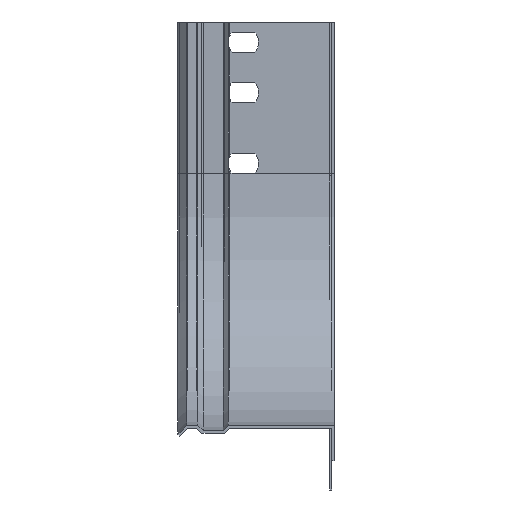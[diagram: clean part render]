
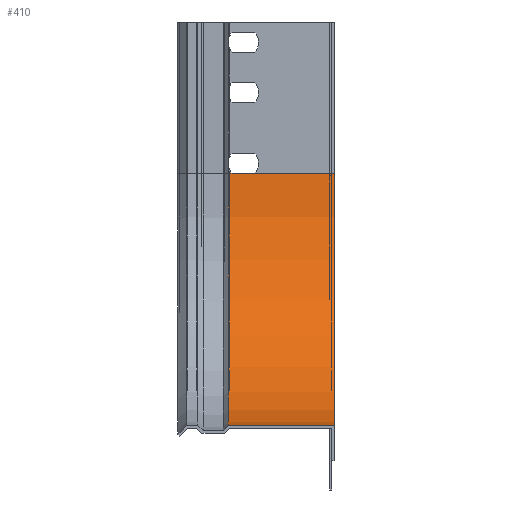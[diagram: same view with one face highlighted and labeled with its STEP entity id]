
A CAD part, left-side view. The second image highlights one B-rep face of the part: STEP entity #410.
In plain terms, the highlighted cylindrical face has radius 100 mm (diameter 200 mm), a partial arc.
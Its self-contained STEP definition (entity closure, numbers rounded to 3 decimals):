
#41 = CIRCLE ( 'NONE', #2132, 100. ) ;
#108 = VECTOR ( 'NONE', #668, 1000. ) ;
#138 = VERTEX_POINT ( 'NONE', #1513 ) ;
#410 = ADVANCED_FACE ( 'NONE', ( #3155 ), #1343, .F. ) ;
#592 = ORIENTED_EDGE ( 'NONE', *, *, #1330, .T. ) ;
#664 = EDGE_CURVE ( 'NONE', #1300, #3653, #2689, .T. ) ;
#668 = DIRECTION ( 'NONE',  ( 0., 1., 0. ) ) ;
#695 = ORIENTED_EDGE ( 'NONE', *, *, #4029, .T. ) ;
#761 = AXIS2_PLACEMENT_3D ( 'NONE', #3558, #1420, #3578 ) ;
#835 = EDGE_CURVE ( 'NONE', #2223, #138, #4607, .T. ) ;
#963 = CARTESIAN_POINT ( 'NONE',  ( -60., 0., 160. ) ) ;
#968 = CARTESIAN_POINT ( 'NONE',  ( -160., 40.472, 60. ) ) ;
#1009 = CIRCLE ( 'NONE', #4596, 100. ) ;
#1225 = CARTESIAN_POINT ( 'NONE',  ( -60., 42., 60. ) ) ;
#1300 = VERTEX_POINT ( 'NONE', #2537 ) ;
#1330 = EDGE_CURVE ( 'NONE', #3653, #3979, #1820, .T. ) ;
#1343 = CYLINDRICAL_SURFACE ( 'NONE', #761, 100. ) ;
#1408 = DIRECTION ( 'NONE',  ( 0., 1., 0. ) ) ;
#1420 = DIRECTION ( 'NONE',  ( 0., -1., 0. ) ) ;
#1428 = ORIENTED_EDGE ( 'NONE', *, *, #1834, .F. ) ;
#1484 = CARTESIAN_POINT ( 'NONE',  ( -60., 0., 160. ) ) ;
#1513 = CARTESIAN_POINT ( 'NONE',  ( -60., 42., 160. ) ) ;
#1597 = DIRECTION ( 'NONE',  ( 0., 1., 0. ) ) ;
#1751 = CARTESIAN_POINT ( 'NONE',  ( -160., 40.472, 60. ) ) ;
#1800 = VERTEX_POINT ( 'NONE', #1815 ) ;
#1815 = CARTESIAN_POINT ( 'NONE',  ( -60., 31.528, 160. ) ) ;
#1820 = LINE ( 'NONE', #1751, #108 ) ;
#1834 = EDGE_CURVE ( 'NONE', #1800, #2223, #2818, .T. ) ;
#1931 = ORIENTED_EDGE ( 'NONE', *, *, #2117, .F. ) ;
#2075 = CARTESIAN_POINT ( 'NONE',  ( -60., 40.472, 160. ) ) ;
#2089 = CARTESIAN_POINT ( 'NONE',  ( -60., 0., 60. ) ) ;
#2117 = EDGE_CURVE ( 'NONE', #3332, #1800, #3714, .T. ) ;
#2132 = AXIS2_PLACEMENT_3D ( 'NONE', #2089, #2164, #3574 ) ;
#2142 = DIRECTION ( 'NONE',  ( 0., 1., 0. ) ) ;
#2164 = DIRECTION ( 'NONE',  ( 0., -1., 0. ) ) ;
#2223 = VERTEX_POINT ( 'NONE', #3151 ) ;
#2260 = EDGE_CURVE ( 'NONE', #3332, #1300, #41, .T. ) ;
#2367 = DIRECTION ( 'NONE',  ( 0., 1., 0. ) ) ;
#2515 = ORIENTED_EDGE ( 'NONE', *, *, #2260, .T. ) ;
#2521 = ORIENTED_EDGE ( 'NONE', *, *, #664, .T. ) ;
#2537 = CARTESIAN_POINT ( 'NONE',  ( -160., 0., 60. ) ) ;
#2568 = VECTOR ( 'NONE', #2367, 1000. ) ;
#2689 = LINE ( 'NONE', #4091, #4498 ) ;
#2818 = LINE ( 'NONE', #2075, #4508 ) ;
#2836 = EDGE_CURVE ( 'NONE', #138, #2972, #1009, .T. ) ;
#2876 = DIRECTION ( 'NONE',  ( 0., 0., -1. ) ) ;
#2972 = VERTEX_POINT ( 'NONE', #4496 ) ;
#3114 = CARTESIAN_POINT ( 'NONE',  ( -160., 0., 60. ) ) ;
#3151 = CARTESIAN_POINT ( 'NONE',  ( -60., 40.472, 160. ) ) ;
#3155 = FACE_OUTER_BOUND ( 'NONE', #3953, .T. ) ;
#3239 = CARTESIAN_POINT ( 'NONE',  ( -60., 0., 160. ) ) ;
#3265 = DIRECTION ( 'NONE',  ( 0., -1., 0. ) ) ;
#3306 = CARTESIAN_POINT ( 'NONE',  ( -160., 31.528, 60. ) ) ;
#3332 = VERTEX_POINT ( 'NONE', #1484 ) ;
#3465 = ORIENTED_EDGE ( 'NONE', *, *, #835, .F. ) ;
#3558 = CARTESIAN_POINT ( 'NONE',  ( -60., 0., 60. ) ) ;
#3574 = DIRECTION ( 'NONE',  ( 0., 0., -1. ) ) ;
#3578 = DIRECTION ( 'NONE',  ( 0., 0., -1. ) ) ;
#3653 = VERTEX_POINT ( 'NONE', #3306 ) ;
#3714 = LINE ( 'NONE', #963, #2568 ) ;
#3810 = DIRECTION ( 'NONE',  ( 0., 1., 0. ) ) ;
#3939 = ORIENTED_EDGE ( 'NONE', *, *, #2836, .F. ) ;
#3953 = EDGE_LOOP ( 'NONE', ( #1931, #2515, #2521, #592, #695, #3939, #3465, #1428 ) ) ;
#3972 = VECTOR ( 'NONE', #1408, 1000. ) ;
#3979 = VERTEX_POINT ( 'NONE', #968 ) ;
#4029 = EDGE_CURVE ( 'NONE', #3979, #2972, #4190, .T. ) ;
#4091 = CARTESIAN_POINT ( 'NONE',  ( -160., 0., 60. ) ) ;
#4190 = LINE ( 'NONE', #3114, #4230 ) ;
#4230 = VECTOR ( 'NONE', #3810, 1000. ) ;
#4496 = CARTESIAN_POINT ( 'NONE',  ( -160., 42., 60. ) ) ;
#4498 = VECTOR ( 'NONE', #1597, 1000. ) ;
#4508 = VECTOR ( 'NONE', #2142, 1000. ) ;
#4596 = AXIS2_PLACEMENT_3D ( 'NONE', #1225, #3265, #2876 ) ;
#4607 = LINE ( 'NONE', #3239, #3972 ) ;
